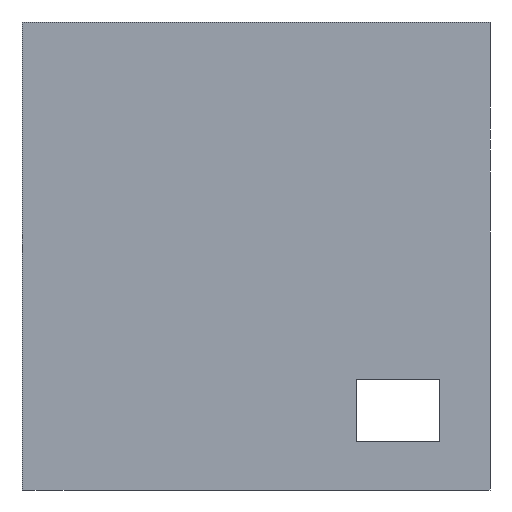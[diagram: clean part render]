
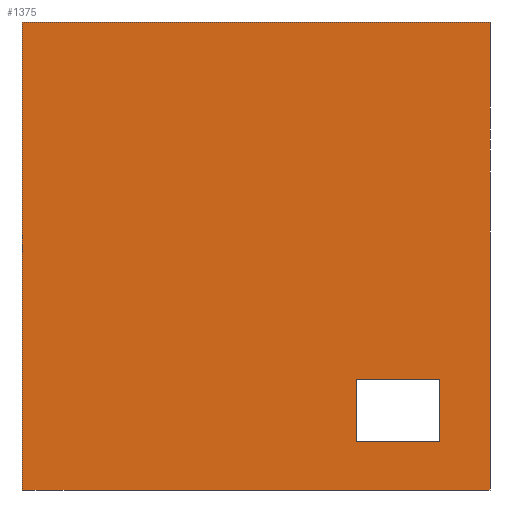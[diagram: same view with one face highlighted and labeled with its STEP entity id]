
A CAD part, left-side view. The second image highlights one B-rep face of the part: STEP entity #1375.
In plain terms, the highlighted planar face has unit normal (-1, 0, 0).
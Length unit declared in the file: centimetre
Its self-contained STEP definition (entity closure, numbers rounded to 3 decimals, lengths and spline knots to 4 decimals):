
#8 = VERTEX_POINT ( 'NONE', #366 ) ;
#26 = CARTESIAN_POINT ( 'NONE',  ( 0., 286.1416, 236.9035 ) ) ;
#32 = ORIENTED_EDGE ( 'NONE', *, *, #1355, .T. ) ;
#59 = VECTOR ( 'NONE', #491, 100. ) ;
#99 = VERTEX_POINT ( 'NONE', #174 ) ;
#134 = CARTESIAN_POINT ( 'NONE',  ( 0., 108.2076, 236.9035 ) ) ;
#140 = CARTESIAN_POINT ( 'NONE',  ( 0., 1000., 1000. ) ) ;
#174 = CARTESIAN_POINT ( 'NONE',  ( 0., 108.2076, 236.9035 ) ) ;
#227 = DIRECTION ( 'NONE',  ( 0., 0., 1. ) ) ;
#236 = ORIENTED_EDGE ( 'NONE', *, *, #331, .T. ) ;
#252 = CARTESIAN_POINT ( 'NONE',  ( 0., 108.2076, 103.1064 ) ) ;
#269 = LINE ( 'NONE', #384, #509 ) ;
#272 = ORIENTED_EDGE ( 'NONE', *, *, #815, .T. ) ;
#304 = FACE_BOUND ( 'NONE', #735, .T. ) ;
#313 = VECTOR ( 'NONE', #1447, 100. ) ;
#331 = EDGE_CURVE ( 'NONE', #1231, #1141, #1433, .T. ) ;
#366 = CARTESIAN_POINT ( 'NONE',  ( 0., 0., 0. ) ) ;
#369 = DIRECTION ( 'NONE',  ( 0., 0., -1. ) ) ;
#374 = DIRECTION ( 'NONE',  ( 0., -1., 0. ) ) ;
#379 = VECTOR ( 'NONE', #374, 100. ) ;
#384 = CARTESIAN_POINT ( 'NONE',  ( 0., 0., 1000. ) ) ;
#391 = DIRECTION ( 'NONE',  ( 0., 0., -1. ) ) ;
#410 = CARTESIAN_POINT ( 'NONE',  ( 0., 1000., 1000. ) ) ;
#420 = EDGE_CURVE ( 'NONE', #1141, #8, #738, .T. ) ;
#450 = CARTESIAN_POINT ( 'NONE',  ( 0., 1000., 0. ) ) ;
#477 = CARTESIAN_POINT ( 'NONE',  ( 0., 1000., 1000. ) ) ;
#491 = DIRECTION ( 'NONE',  ( 0., 0., -1. ) ) ;
#509 = VECTOR ( 'NONE', #391, 100. ) ;
#510 = VECTOR ( 'NONE', #227, 100. ) ;
#520 = VECTOR ( 'NONE', #369, 100. ) ;
#574 = ORIENTED_EDGE ( 'NONE', *, *, #420, .T. ) ;
#593 = ORIENTED_EDGE ( 'NONE', *, *, #1261, .F. ) ;
#615 = CARTESIAN_POINT ( 'NONE',  ( 0., 0., 1000. ) ) ;
#647 = VECTOR ( 'NONE', #1426, 100. ) ;
#654 = PLANE ( 'NONE',  #1291 ) ;
#712 = LINE ( 'NONE', #252, #901 ) ;
#735 = EDGE_LOOP ( 'NONE', ( #32, #1104, #272, #1321 ) ) ;
#738 = LINE ( 'NONE', #1214, #379 ) ;
#739 = LINE ( 'NONE', #134, #647 ) ;
#795 = EDGE_CURVE ( 'NONE', #1189, #812, #712, .T. ) ;
#812 = VERTEX_POINT ( 'NONE', #1405 ) ;
#815 = EDGE_CURVE ( 'NONE', #812, #932, #953, .T. ) ;
#828 = CARTESIAN_POINT ( 'NONE',  ( 0., 108.2076, 103.1064 ) ) ;
#882 = DIRECTION ( 'NONE',  ( 0., 0., -1. ) ) ;
#886 = FACE_OUTER_BOUND ( 'NONE', #1341, .T. ) ;
#901 = VECTOR ( 'NONE', #946, 100. ) ;
#916 = VERTEX_POINT ( 'NONE', #615 ) ;
#932 = VERTEX_POINT ( 'NONE', #26 ) ;
#946 = DIRECTION ( 'NONE',  ( 0., 1., 0. ) ) ;
#953 = LINE ( 'NONE', #1432, #510 ) ;
#955 = LINE ( 'NONE', #1434, #520 ) ;
#1104 = ORIENTED_EDGE ( 'NONE', *, *, #795, .T. ) ;
#1141 = VERTEX_POINT ( 'NONE', #450 ) ;
#1189 = VERTEX_POINT ( 'NONE', #828 ) ;
#1214 = CARTESIAN_POINT ( 'NONE',  ( 0., 1000., 0. ) ) ;
#1231 = VERTEX_POINT ( 'NONE', #1283 ) ;
#1252 = EDGE_CURVE ( 'NONE', #1231, #916, #1311, .T. ) ;
#1261 = EDGE_CURVE ( 'NONE', #916, #8, #269, .T. ) ;
#1263 = EDGE_CURVE ( 'NONE', #932, #99, #739, .T. ) ;
#1283 = CARTESIAN_POINT ( 'NONE',  ( 0., 1000., 1000. ) ) ;
#1291 = AXIS2_PLACEMENT_3D ( 'NONE', #410, #1367, #882 ) ;
#1311 = LINE ( 'NONE', #477, #313 ) ;
#1321 = ORIENTED_EDGE ( 'NONE', *, *, #1263, .T. ) ;
#1341 = EDGE_LOOP ( 'NONE', ( #574, #593, #1408, #236 ) ) ;
#1355 = EDGE_CURVE ( 'NONE', #99, #1189, #955, .T. ) ;
#1367 = DIRECTION ( 'NONE',  ( 1., 0., 0. ) ) ;
#1375 = ADVANCED_FACE ( 'NONE', ( #304, #886 ), #654, .F. ) ;
#1405 = CARTESIAN_POINT ( 'NONE',  ( 0., 286.1416, 103.1064 ) ) ;
#1408 = ORIENTED_EDGE ( 'NONE', *, *, #1252, .F. ) ;
#1426 = DIRECTION ( 'NONE',  ( 0., -1., 0. ) ) ;
#1432 = CARTESIAN_POINT ( 'NONE',  ( 0., 286.1416, 103.1064 ) ) ;
#1433 = LINE ( 'NONE', #140, #59 ) ;
#1434 = CARTESIAN_POINT ( 'NONE',  ( 0., 108.2076, 103.1064 ) ) ;
#1447 = DIRECTION ( 'NONE',  ( 0., -1., 0. ) ) ;
